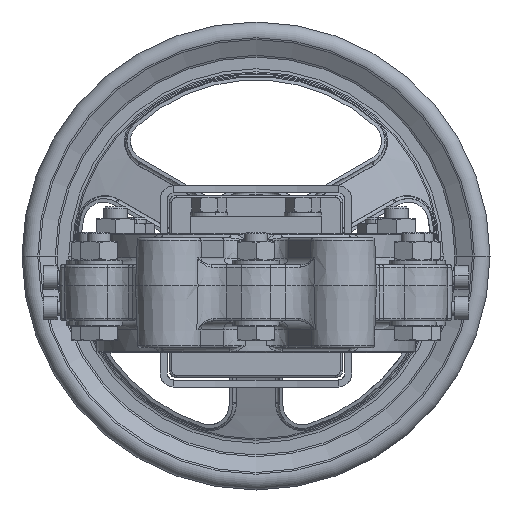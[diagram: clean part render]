
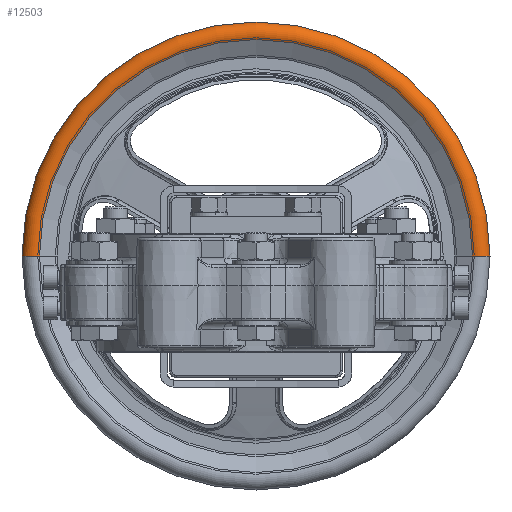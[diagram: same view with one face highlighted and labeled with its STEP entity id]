
A CAD part, front view. The second image highlights one B-rep face of the part: STEP entity #12503.
In plain terms, the highlighted toroidal (fillet/blend) face has major radius 95 mm and minor radius 5 mm.
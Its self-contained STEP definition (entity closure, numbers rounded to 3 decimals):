
#266 = TOROIDAL_SURFACE ( 'NONE', #87834, 95., 5. ) ;
#333 = VERTEX_POINT ( 'NONE', #12065 ) ;
#2003 = ORIENTED_EDGE ( 'NONE', *, *, #64729, .F. ) ;
#2257 = EDGE_CURVE ( 'NONE', #34896, #73304, #14286, .T. ) ;
#3677 = VERTEX_POINT ( 'NONE', #20911 ) ;
#6955 = DIRECTION ( 'NONE',  ( 0., 1., 0. ) ) ;
#7241 = CIRCLE ( 'NONE', #119465, 5. ) ;
#9466 = ORIENTED_EDGE ( 'NONE', *, *, #30667, .F. ) ;
#12065 = CARTESIAN_POINT ( 'NONE',  ( -100., 390.5, 12.75 ) ) ;
#12503 = ADVANCED_FACE ( 'NONE', ( #58630 ), #266, .T. ) ;
#14286 = CIRCLE ( 'NONE', #103187, 5. ) ;
#14409 = DIRECTION ( 'NONE',  ( 0., 1., 0. ) ) ;
#15970 = CARTESIAN_POINT ( 'NONE',  ( 0., 390.5, 12.75 ) ) ;
#20911 = CARTESIAN_POINT ( 'NONE',  ( -92.5, 386.17, 12.75 ) ) ;
#22408 = DIRECTION ( 'NONE',  ( 0., 0., -1. ) ) ;
#26997 = AXIS2_PLACEMENT_3D ( 'NONE', #47580, #113110, #56923 ) ;
#30667 = EDGE_CURVE ( 'NONE', #333, #73304, #84757, .T. ) ;
#31100 = CARTESIAN_POINT ( 'NONE',  ( 95., 390.5, 12.75 ) ) ;
#34896 = VERTEX_POINT ( 'NONE', #117355 ) ;
#40479 = DIRECTION ( 'NONE',  ( 0., -1., 0. ) ) ;
#47580 = CARTESIAN_POINT ( 'NONE',  ( 0., 386.17, 12.75 ) ) ;
#48895 = CARTESIAN_POINT ( 'NONE',  ( 100., 390.5, 12.75 ) ) ;
#50303 = CIRCLE ( 'NONE', #26997, 92.5 ) ;
#56923 = DIRECTION ( 'NONE',  ( 1., 0., 0. ) ) ;
#58630 = FACE_OUTER_BOUND ( 'NONE', #79663, .T. ) ;
#64729 = EDGE_CURVE ( 'NONE', #3677, #333, #7241, .T. ) ;
#70278 = CARTESIAN_POINT ( 'NONE',  ( 0., 390.5, 12.75 ) ) ;
#72256 = DIRECTION ( 'NONE',  ( 1., 0., 0. ) ) ;
#73304 = VERTEX_POINT ( 'NONE', #48895 ) ;
#75059 = ORIENTED_EDGE ( 'NONE', *, *, #84328, .T. ) ;
#78299 = CARTESIAN_POINT ( 'NONE',  ( -95., 390.5, 12.75 ) ) ;
#79632 = DIRECTION ( 'NONE',  ( 1., 0., 0. ) ) ;
#79663 = EDGE_LOOP ( 'NONE', ( #2003, #75059, #107417, #9466 ) ) ;
#84328 = EDGE_CURVE ( 'NONE', #3677, #34896, #50303, .T. ) ;
#84757 = CIRCLE ( 'NONE', #85563, 100. ) ;
#85563 = AXIS2_PLACEMENT_3D ( 'NONE', #70278, #14409, #79632 ) ;
#87763 = DIRECTION ( 'NONE',  ( -1., 0., 0. ) ) ;
#87834 = AXIS2_PLACEMENT_3D ( 'NONE', #15970, #6955, #72256 ) ;
#96550 = DIRECTION ( 'NONE',  ( 0., 0., 1. ) ) ;
#103187 = AXIS2_PLACEMENT_3D ( 'NONE', #31100, #96550, #40479 ) ;
#107417 = ORIENTED_EDGE ( 'NONE', *, *, #2257, .T. ) ;
#113110 = DIRECTION ( 'NONE',  ( 0., 1., 0. ) ) ;
#117355 = CARTESIAN_POINT ( 'NONE',  ( 92.5, 386.17, 12.75 ) ) ;
#119465 = AXIS2_PLACEMENT_3D ( 'NONE', #78299, #22408, #87763 ) ;
